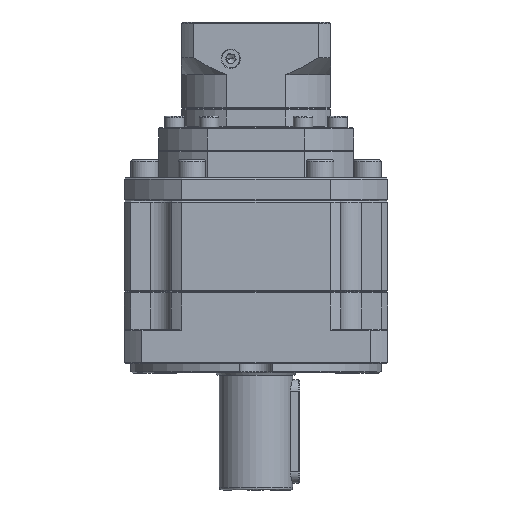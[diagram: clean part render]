
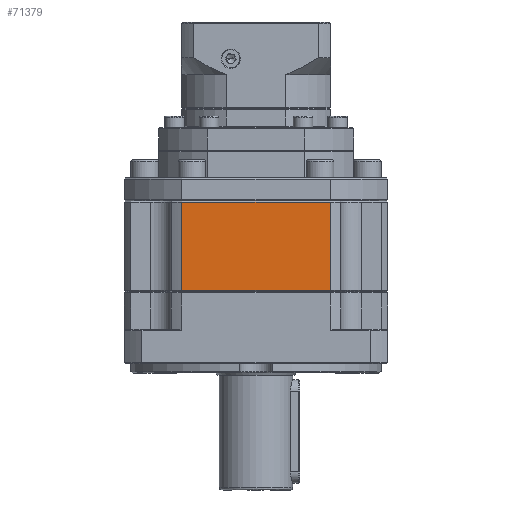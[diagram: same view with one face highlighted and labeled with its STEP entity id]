
A CAD part, front view. The second image highlights one B-rep face of the part: STEP entity #71379.
In plain terms, the highlighted planar face has unit normal (0, -1, 0).
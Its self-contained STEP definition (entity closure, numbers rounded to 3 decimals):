
#463 = ORIENTED_EDGE ( 'NONE', *, *, #110185, .F. ) ;
#1094 = VECTOR ( 'NONE', #139495, 1000. ) ;
#1278 = CARTESIAN_POINT ( 'NONE',  ( -1.837, -60.36, 209.152 ) ) ;
#6534 = FACE_OUTER_BOUND ( 'NONE', #35912, .T. ) ;
#16137 = CARTESIAN_POINT ( 'NONE',  ( -66.637, -60.36, 170.152 ) ) ;
#16448 = VECTOR ( 'NONE', #87794, 1000. ) ;
#30590 = DIRECTION ( 'NONE',  ( -1., 0., 0. ) ) ;
#35713 = ORIENTED_EDGE ( 'NONE', *, *, #44678, .F. ) ;
#35912 = EDGE_LOOP ( 'NONE', ( #91714, #102479, #35713, #463 ) ) ;
#36248 = VECTOR ( 'NONE', #107118, 1000. ) ;
#38403 = PLANE ( 'NONE',  #86018 ) ;
#44678 = EDGE_CURVE ( 'NONE', #98435, #107771, #122947, .T. ) ;
#53592 = EDGE_CURVE ( 'NONE', #107771, #69425, #128799, .T. ) ;
#66742 = VECTOR ( 'NONE', #30590, 1000. ) ;
#69425 = VERTEX_POINT ( 'NONE', #117471 ) ;
#71379 = ADVANCED_FACE ( 'NONE', ( #6534 ), #38403, .F. ) ;
#86018 = AXIS2_PLACEMENT_3D ( 'NONE', #92551, #137134, #93477 ) ;
#87794 = DIRECTION ( 'NONE',  ( 0., 0., -1. ) ) ;
#91714 = ORIENTED_EDGE ( 'NONE', *, *, #140510, .F. ) ;
#92551 = CARTESIAN_POINT ( 'NONE',  ( 23.263, -60.36, 209.152 ) ) ;
#93477 = DIRECTION ( 'NONE',  ( -1., 0., 0. ) ) ;
#93797 = CARTESIAN_POINT ( 'NONE',  ( 23.263, -60.36, 170.152 ) ) ;
#97212 = CARTESIAN_POINT ( 'NONE',  ( -66.637, -60.36, 209.152 ) ) ;
#98435 = VERTEX_POINT ( 'NONE', #129659 ) ;
#99607 = CARTESIAN_POINT ( 'NONE',  ( -1.837, -60.36, 208.652 ) ) ;
#101429 = VERTEX_POINT ( 'NONE', #16137 ) ;
#102479 = ORIENTED_EDGE ( 'NONE', *, *, #53592, .F. ) ;
#107118 = DIRECTION ( 'NONE',  ( 1., 0., 0. ) ) ;
#107771 = VERTEX_POINT ( 'NONE', #99607 ) ;
#109263 = LINE ( 'NONE', #93797, #66742 ) ;
#110185 = EDGE_CURVE ( 'NONE', #101429, #98435, #140501, .T. ) ;
#117471 = CARTESIAN_POINT ( 'NONE',  ( -1.837, -60.36, 170.152 ) ) ;
#122947 = LINE ( 'NONE', #140304, #36248 ) ;
#128799 = LINE ( 'NONE', #1278, #16448 ) ;
#129659 = CARTESIAN_POINT ( 'NONE',  ( -66.637, -60.36, 208.652 ) ) ;
#137134 = DIRECTION ( 'NONE',  ( 0., 1., 0. ) ) ;
#139495 = DIRECTION ( 'NONE',  ( 0., 0., 1. ) ) ;
#140304 = CARTESIAN_POINT ( 'NONE',  ( -34.237, -60.36, 208.652 ) ) ;
#140501 = LINE ( 'NONE', #97212, #1094 ) ;
#140510 = EDGE_CURVE ( 'NONE', #69425, #101429, #109263, .T. ) ;
